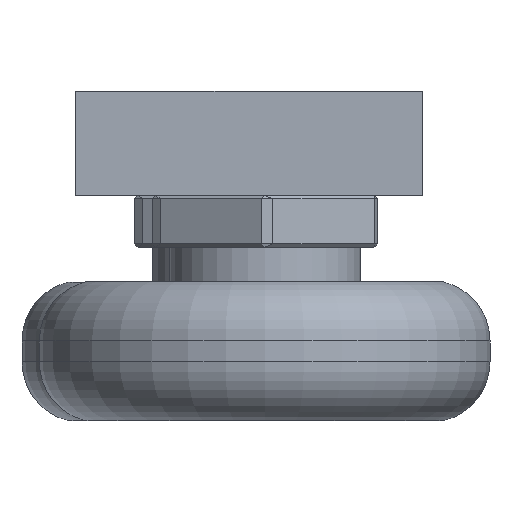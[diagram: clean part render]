
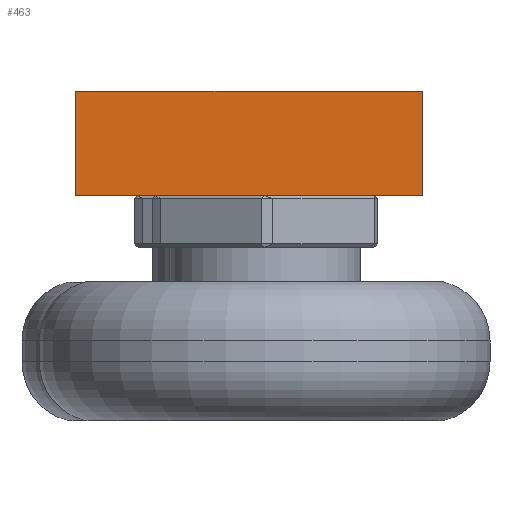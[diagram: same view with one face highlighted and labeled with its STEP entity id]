
A CAD part, left-side view. The second image highlights one B-rep face of the part: STEP entity #463.
In plain terms, the highlighted planar face has unit normal (-1, 0, 0).
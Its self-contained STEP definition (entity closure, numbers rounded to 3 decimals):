
#74 = VECTOR ( 'NONE', #1057, 1000. ) ;
#158 = LINE ( 'NONE', #1470, #74 ) ;
#165 = DIRECTION ( 'NONE',  ( 1., 0., 0. ) ) ;
#391 = CARTESIAN_POINT ( 'NONE',  ( -85., 10., 3. ) ) ;
#440 = DIRECTION ( 'NONE',  ( 0., -1., 0. ) ) ;
#463 = ADVANCED_FACE ( 'NONE', ( #3724 ), #561, .F. ) ;
#561 = PLANE ( 'NONE',  #1022 ) ;
#864 = ORIENTED_EDGE ( 'NONE', *, *, #3228, .F. ) ;
#885 = CARTESIAN_POINT ( 'NONE',  ( -85., -10., 3. ) ) ;
#1022 = AXIS2_PLACEMENT_3D ( 'NONE', #885, #165, #4136 ) ;
#1057 = DIRECTION ( 'NONE',  ( 0., 0., -1. ) ) ;
#1116 = CARTESIAN_POINT ( 'NONE',  ( -85., -10., 3. ) ) ;
#1317 = VECTOR ( 'NONE', #3015, 1000. ) ;
#1332 = VERTEX_POINT ( 'NONE', #2876 ) ;
#1470 = CARTESIAN_POINT ( 'NONE',  ( -85., -10., 3. ) ) ;
#1746 = LINE ( 'NONE', #1116, #3791 ) ;
#1839 = ORIENTED_EDGE ( 'NONE', *, *, #3196, .T. ) ;
#1930 = VERTEX_POINT ( 'NONE', #2880 ) ;
#1977 = ORIENTED_EDGE ( 'NONE', *, *, #2071, .F. ) ;
#2071 = EDGE_CURVE ( 'NONE', #1930, #1332, #1746, .T. ) ;
#2145 = EDGE_CURVE ( 'NONE', #2851, #2599, #4095, .T. ) ;
#2474 = CARTESIAN_POINT ( 'NONE',  ( -85., -10., -3. ) ) ;
#2599 = VERTEX_POINT ( 'NONE', #3146 ) ;
#2669 = EDGE_LOOP ( 'NONE', ( #2954, #864, #1977, #1839 ) ) ;
#2851 = VERTEX_POINT ( 'NONE', #3695 ) ;
#2876 = CARTESIAN_POINT ( 'NONE',  ( -85., -10., 3. ) ) ;
#2880 = CARTESIAN_POINT ( 'NONE',  ( -85., 10., 3. ) ) ;
#2954 = ORIENTED_EDGE ( 'NONE', *, *, #2145, .T. ) ;
#3015 = DIRECTION ( 'NONE',  ( 0., 0., -1. ) ) ;
#3146 = CARTESIAN_POINT ( 'NONE',  ( -85., -10., -3. ) ) ;
#3196 = EDGE_CURVE ( 'NONE', #1930, #2851, #3720, .T. ) ;
#3228 = EDGE_CURVE ( 'NONE', #1332, #2599, #158, .T. ) ;
#3451 = VECTOR ( 'NONE', #3457, 1000. ) ;
#3457 = DIRECTION ( 'NONE',  ( 0., -1., 0. ) ) ;
#3695 = CARTESIAN_POINT ( 'NONE',  ( -85., 10., -3. ) ) ;
#3720 = LINE ( 'NONE', #391, #1317 ) ;
#3724 = FACE_OUTER_BOUND ( 'NONE', #2669, .T. ) ;
#3791 = VECTOR ( 'NONE', #440, 1000. ) ;
#4095 = LINE ( 'NONE', #2474, #3451 ) ;
#4136 = DIRECTION ( 'NONE',  ( 0., 0., -1. ) ) ;
